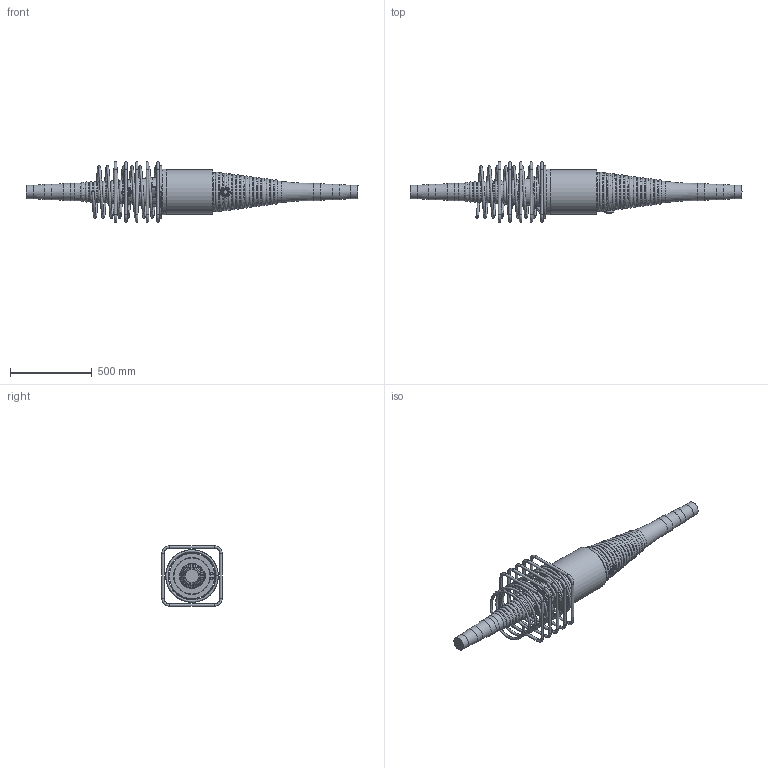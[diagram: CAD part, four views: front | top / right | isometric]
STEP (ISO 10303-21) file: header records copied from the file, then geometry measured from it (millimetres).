
FILE_DESCRIPTION(/* description */ (''),/* implementation_level */ '2;1');
FILE_NAME(/* name */ 'BBR VT CONA CMI BT 1606_Coupler H Assembly_CS-34,28.stp',/* time_stamp */ '2025-05-14T11:33:03+02:00',/* author */ ('tk'),/* organization */ (''),/* preprocessor_version */ 'ST-DEVELOPER v20',/* originating_system */ 'Autodesk Inventor 2024',/* authorisation */ '');
FILE_SCHEMA (('AUTOMOTIVE_DESIGN { 1 0 10303 214 3 1 1 }'));
Products named in the file (1): BBR VT CONA CMI BT 1606_Coupler H Assembly_CS-34,28
Bounding box: 2025.13 x 370 x 370 mm (x, y, z)
Volume: 48079181.7 mm3; surface area: 1878391.3 mm2
Topology: 7 solids, 8 shells, 977 faces, 2604 edges, 1693 vertices
Faces by surface type: bspline 395, plane 304, torus 129, cylinder 105, cone 34, sphere 10
Full cylindrical faces by diameter (mm): 16 x20, 34 x2, 57 x2, 84 x2, 94 x2, 104 x2, 164 x1, 218 x1, 223.017 x1, 273 x1, 280 x1
Entity records: 45745 total; most frequent: CARTESIAN_POINT 23020, ORIENTED_EDGE 5188, DIRECTION 3775, EDGE_CURVE 2594, VERTEX_POINT 1693, AXIS2_PLACEMENT_3D 1402, EDGE_LOOP 1049, FACE_OUTER_BOUND 977
